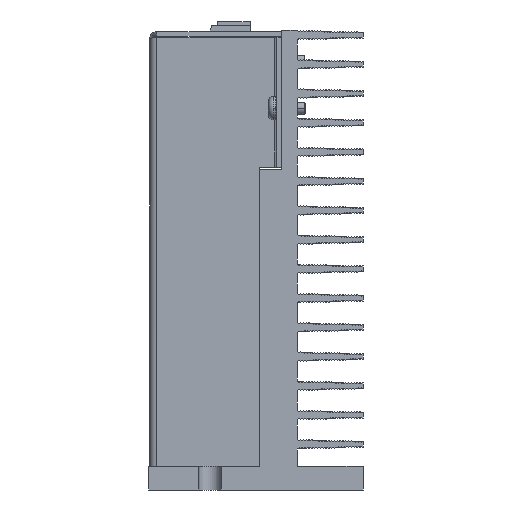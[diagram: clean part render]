
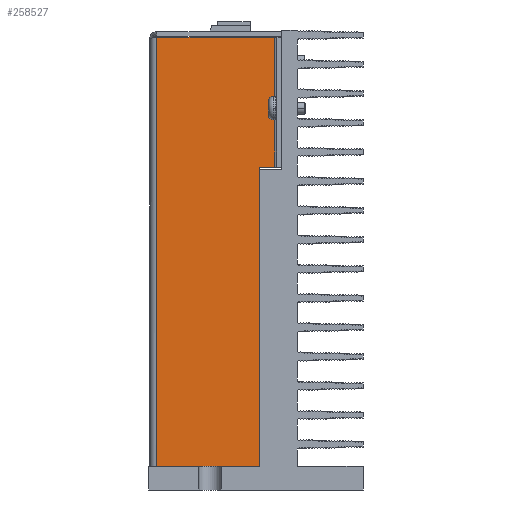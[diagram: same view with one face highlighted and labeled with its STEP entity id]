
A CAD part, left-side view. The second image highlights one B-rep face of the part: STEP entity #258527.
In plain terms, the highlighted planar face has unit normal (-1, 0, 0).
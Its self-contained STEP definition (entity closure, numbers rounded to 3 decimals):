
#256898=DIRECTION('',(0.,0.,1.));
#256899=VECTOR('',#256898,91.25);
#256900=CARTESIAN_POINT('',(-52.,21.55,-46.));
#256901=LINE('',#256900,#256899);
#256932=DIRECTION('',(0.,1.,0.));
#256933=VECTOR('',#256932,15.);
#256934=CARTESIAN_POINT('',(-52.,-0.25,-46.));
#256935=LINE('',#256934,#256933);
#256939=DIRECTION('',(0.,0.,1.));
#256940=VECTOR('',#256939,3.);
#256941=CARTESIAN_POINT('',(-52.,14.75,-49.));
#256942=LINE('',#256941,#256940);
#256946=DIRECTION('',(0.,-1.,0.));
#256947=VECTOR('',#256946,3.5);
#256948=CARTESIAN_POINT('',(-52.,18.25,-49.));
#256949=LINE('',#256948,#256947);
#256953=DIRECTION('',(0.,0.,-1.));
#256954=VECTOR('',#256953,3.);
#256955=CARTESIAN_POINT('',(-52.,18.25,-46.));
#256956=LINE('',#256955,#256954);
#256960=DIRECTION('',(0.,1.,0.));
#256961=VECTOR('',#256960,3.3);
#256962=CARTESIAN_POINT('',(-52.,18.25,-46.));
#256963=LINE('',#256962,#256961);
#256967=DIRECTION('',(0.,-1.,0.));
#256968=VECTOR('',#256967,25.);
#256969=CARTESIAN_POINT('',(-52.,21.55,45.25));
#256970=LINE('',#256969,#256968);
#256974=DIRECTION('',(0.,1.,0.));
#256975=VECTOR('',#256974,3.2);
#256976=CARTESIAN_POINT('',(-52.,-3.45,17.75));
#256977=LINE('',#256976,#256975);
#256981=DIRECTION('',(0.,0.,1.));
#256982=VECTOR('',#256981,63.75);
#256983=CARTESIAN_POINT('',(-52.,-0.25,-46.));
#256984=LINE('',#256983,#256982);
#257219=DIRECTION('',(0.,0.,-1.));
#257220=VECTOR('',#257219,27.5);
#257221=CARTESIAN_POINT('',(-52.,-3.45,45.25));
#257222=LINE('',#257221,#257220);
#257900=CARTESIAN_POINT('',(-52.,21.55,-46.));
#257901=CARTESIAN_POINT('',(-52.,21.55,45.25));
#257902=VERTEX_POINT('',#257900);
#257903=VERTEX_POINT('',#257901);
#257986=CARTESIAN_POINT('',(-52.,-0.25,-46.));
#257987=CARTESIAN_POINT('',(-52.,-0.25,17.75));
#257988=VERTEX_POINT('',#257986);
#257989=VERTEX_POINT('',#257987);
#258038=CARTESIAN_POINT('',(-52.,-3.45,45.25));
#258039=VERTEX_POINT('',#258038);
#258040=CARTESIAN_POINT('',(-52.,-3.45,17.75));
#258041=VERTEX_POINT('',#258040);
#258082=CARTESIAN_POINT('',(-52.,18.25,-46.));
#258083=CARTESIAN_POINT('',(-52.,18.25,-49.));
#258084=VERTEX_POINT('',#258082);
#258085=VERTEX_POINT('',#258083);
#258086=CARTESIAN_POINT('',(-52.,14.75,-49.));
#258087=VERTEX_POINT('',#258086);
#258088=CARTESIAN_POINT('',(-52.,14.75,-46.));
#258089=VERTEX_POINT('',#258088);
#258501=CARTESIAN_POINT('',(-52.,23.05,45.));
#258502=DIRECTION('',(1.,0.,0.));
#258503=DIRECTION('',(0.,0.,1.));
#258504=AXIS2_PLACEMENT_3D('',#258501,#258502,#258503);
#258505=PLANE('',#258504);
#258507=ORIENTED_EDGE('',*,*,#258506,.T.);
#258509=ORIENTED_EDGE('',*,*,#258508,.F.);
#258511=ORIENTED_EDGE('',*,*,#258510,.F.);
#258513=ORIENTED_EDGE('',*,*,#258512,.F.);
#258515=ORIENTED_EDGE('',*,*,#258514,.T.);
#258516=ORIENTED_EDGE('',*,*,#258492,.T.);
#258518=ORIENTED_EDGE('',*,*,#258517,.T.);
#258520=ORIENTED_EDGE('',*,*,#258519,.T.);
#258522=ORIENTED_EDGE('',*,*,#258521,.T.);
#258524=ORIENTED_EDGE('',*,*,#258523,.F.);
#258525=EDGE_LOOP('',(#258507,#258509,#258511,#258513,#258515,#258516,#258518,
#258520,#258522,#258524));
#258526=FACE_OUTER_BOUND('',#258525,.F.);
#258492=EDGE_CURVE('',#257902,#257903,#256901,.T.);
#258506=EDGE_CURVE('',#257988,#258089,#256935,.T.);
#258508=EDGE_CURVE('',#258087,#258089,#256942,.T.);
#258510=EDGE_CURVE('',#258085,#258087,#256949,.T.);
#258512=EDGE_CURVE('',#258084,#258085,#256956,.T.);
#258514=EDGE_CURVE('',#258084,#257902,#256963,.T.);
#258517=EDGE_CURVE('',#257903,#258039,#256970,.T.);
#258519=EDGE_CURVE('',#258039,#258041,#257222,.T.);
#258521=EDGE_CURVE('',#258041,#257989,#256977,.T.);
#258523=EDGE_CURVE('',#257988,#257989,#256984,.T.);
#258527=ADVANCED_FACE('',(#258526),#258505,.F.);
